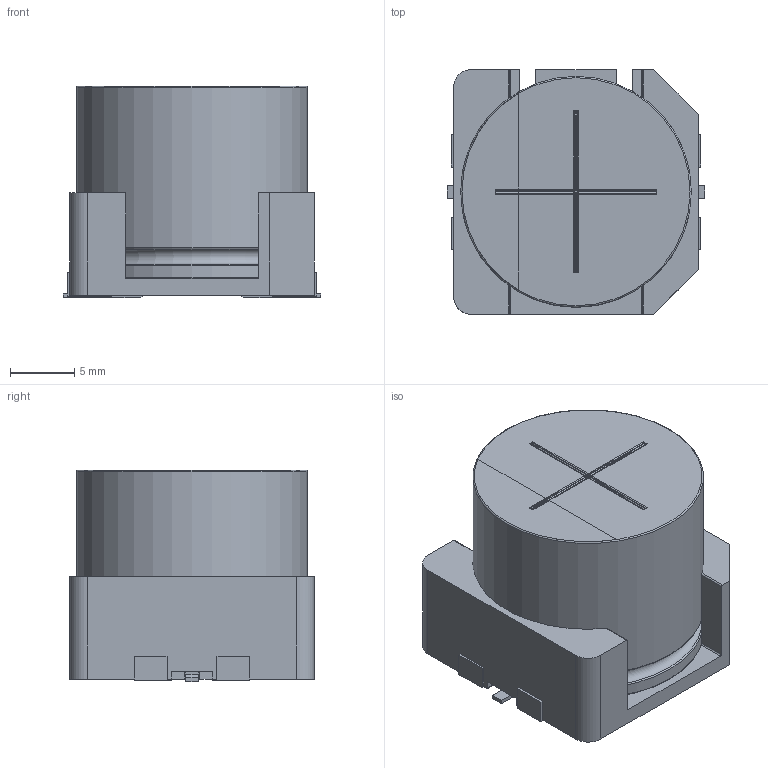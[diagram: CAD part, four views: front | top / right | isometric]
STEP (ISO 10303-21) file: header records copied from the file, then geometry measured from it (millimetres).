
FILE_DESCRIPTION(/* description */ (''),/* implementation_level */ '2;1');
FILE_NAME(/* name */ 'φ18x16.5L_耐振品_2.stp',/* time_stamp */ '2019-05-21T10:48:06+09:00',/* author */ (''),/* organization */ (''),/* preprocessor_version */ 'ST-DEVELOPER v16.7',/* originating_system */ 'SIEMENS PLM Software NX 1851',/* authorisation */ '');
FILE_SCHEMA (('AUTOMOTIVE_DESIGN { 1 0 10303 214 3 1 1 1 }'));
Length unit declared in the file: millimetre
Products named in the file (1): 18x16.5
Bounding box: 20.1 x 19.1 x 16.5 mm (x, y, z)
Volume: 4701.1 mm3; surface area: 3090.3 mm2
Topology: 9 solids, 9 shells, 186 faces, 465 edges, 298 vertices
Faces by surface type: plane 122, cylinder 51, torus 5, sphere 4, bspline 4
Full cylindrical faces by diameter (mm): 1.5 x4, 18 x2
Entity records: 5617 total; most frequent: CARTESIAN_POINT 1125, DIRECTION 908, ORIENTED_EDGE 896, EDGE_CURVE 448, LINE 338, VECTOR 338, VERTEX_POINT 296, AXIS2_PLACEMENT_3D 285
